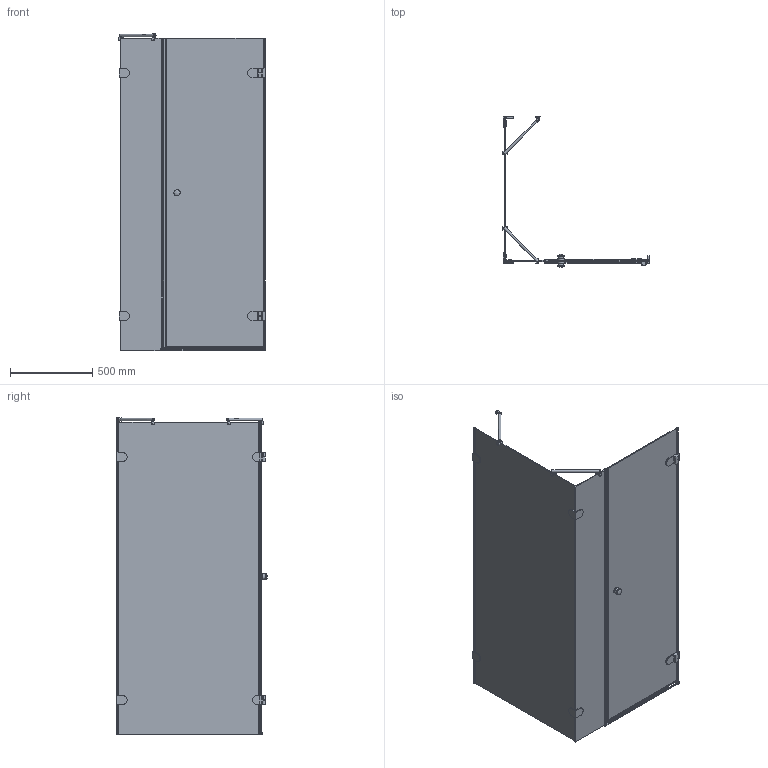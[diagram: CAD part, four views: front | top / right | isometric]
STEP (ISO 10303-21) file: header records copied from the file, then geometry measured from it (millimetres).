
FILE_DESCRIPTION(/* description */ (''),/* implementation_level */ '2;1');
FILE_NAME(/* name */ 'D:\2\LUX RECTAN GK-003A\LUX RECTAN GK-003A правая модель\LUX RECTAN GK-003A ПРАВАЯ-3D.stp',/* time_stamp */ '2020-04-08T19:16:31+03:00',/* author */ ('User'),/* organization */ (''),/* preprocessor_version */ 'ST-DEVELOPER v15.2',/* originating_system */ 'Autodesk Inventor 2014',/* authorisation */ '');
FILE_SCHEMA (('AUTOMOTIVE_DESIGN { 1 0 10303 214 3 1 1 }'));
Length unit declared in the file: millimetre
Products named in the file (1): LUX RECTAN GK-003A ПРАВАЯ-3D
Bounding box: 894 x 918 x 1931.49 mm (x, y, z)
Volume: 20859854.8 mm3; surface area: 7124647.3 mm2
Topology: 4 solids, 19 shells, 823 faces, 2044 edges, 1297 vertices
Faces by surface type: plane 558, cylinder 214, torus 18, cone 14, sphere 11, bspline 8
Full cylindrical faces by diameter (mm): 4.917 x2, 6 x2, 7 x2, 8 x5, 9 x4, 11 x7, 12 x9, 15 x2, 18 x4, 20 x4, 26 x1, 30 x4, 35 x2, 38 x4, 40 x2
Entity records: 24892 total; most frequent: CARTESIAN_POINT 4862, DIRECTION 3957, ORIENTED_EDGE 3836, EDGE_CURVE 1918, LINE 1339, VECTOR 1339, AXIS2_PLACEMENT_3D 1309, VERTEX_POINT 1255
